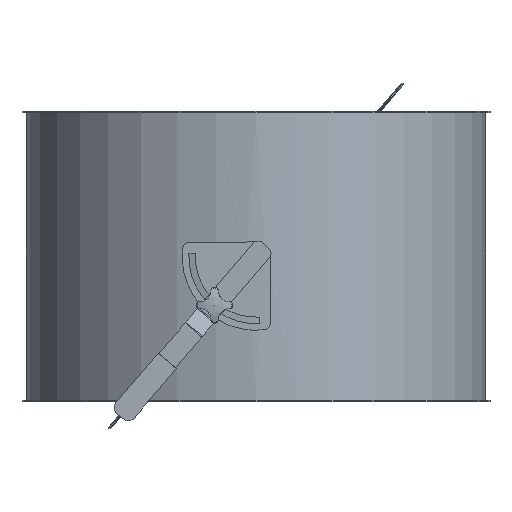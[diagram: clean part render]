
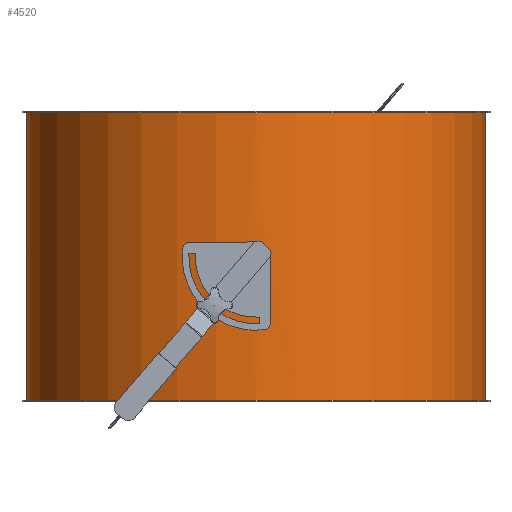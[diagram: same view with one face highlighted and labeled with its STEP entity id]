
A CAD part, left-side view. The second image highlights one B-rep face of the part: STEP entity #4520.
In plain terms, the highlighted cylindrical face has radius 316 mm (diameter 632 mm), a full revolution.
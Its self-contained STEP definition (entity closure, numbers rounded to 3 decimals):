
#4406=CARTESIAN_POINT('',(315.415,19.226,200.0));
#4407=VERTEX_POINT('',#4406);
#4417=CARTESIAN_POINT('',(315.414,19.225,200.));
#4418=CARTESIAN_POINT('',(315.414,19.225,200.002));
#4419=CARTESIAN_POINT('',(315.414,19.225,200.005));
#4420=CARTESIAN_POINT('',(315.414,19.225,200.007));
#4421=CARTESIAN_POINT('',(315.415,19.224,202.909));
#4422=CARTESIAN_POINT('',(315.477,18.256,207.248));
#4423=CARTESIAN_POINT('',(315.639,15.176,212.233));
#4424=CARTESIAN_POINT('',(315.819,11.089,216.395));
#4425=CARTESIAN_POINT('',(316.009,4.463,219.651));
#4426=CARTESIAN_POINT('',(316.009,-4.405,219.661));
#4427=CARTESIAN_POINT('',(315.784,-12.372,215.782));
#4428=CARTESIAN_POINT('',(315.466,-18.524,207.992));
#4429=CARTESIAN_POINT('',(315.382,-19.737,199.962));
#4430=CARTESIAN_POINT('',(315.455,-18.55,194.717));
#4431=CARTESIAN_POINT('',(315.492,-17.917,192.877));
#4432=CARTESIAN_POINT('',(315.556,-16.777,190.218));
#4433=CARTESIAN_POINT('',(315.656,-14.848,187.347));
#4434=CARTESIAN_POINT('',(315.773,-12.049,184.713));
#4435=CARTESIAN_POINT('',(315.883,-8.856,182.499));
#4436=CARTESIAN_POINT('',(316.009,-3.462,180.346));
#4437=CARTESIAN_POINT('',(316.009,4.415,180.338));
#4438=CARTESIAN_POINT('',(315.782,12.389,184.228));
#4439=CARTESIAN_POINT('',(315.546,16.993,190.088));
#4440=CARTESIAN_POINT('',(315.435,18.897,195.615));
#4441=CARTESIAN_POINT('',(315.415,19.225,198.551));
#4442=CARTESIAN_POINT('',(315.414,19.225,200.));
#4443=B_SPLINE_CURVE_WITH_KNOTS('',3,(#4417,#4418,#4419,#4420,#4421,#4422,#4423,#4424,#4425,#4426,#4427,#4428,#4429,#4430,#4431,#4432,#4433,#4434,#4435,#4436,#4437,#4438,#4439,#4440,#4441,#4442),.UNSPECIFIED.,.T.,.U.,(4,3,1,1,1,1,1,1,1,1,1,1,1,1,1,1,1,1,1,1,1,4),(-9.042,-9.042,-8.396,-8.073,-7.75,-7.104,-6.459,-5.813,-5.167,-4.306,-4.09,-3.983,-3.875,-3.445,-3.229,-3.014,-2.583,-1.938,-1.292,-0.646,-0.323,-0.001),.UNSPECIFIED.);
#4444=EDGE_CURVE('',#4407,#4407,#4443,.T.);
#4449=CARTESIAN_POINT('',(0.0,0.0,0.0));
#4450=DIRECTION('',(0.0,0.0,1.0));
#4451=DIRECTION('',(-1.0,0.0,0.0));
#4452=AXIS2_PLACEMENT_3D('',#4449,#4450,#4451);
#4453=CYLINDRICAL_SURFACE('',#4452,316.0);
#4454=CARTESIAN_POINT('',(316.0,0.,398.0));
#4455=VERTEX_POINT('',#4454);
#4456=CARTESIAN_POINT('',(0.0,0.0,398.0));
#4457=DIRECTION('',(0.0,0.0,-1.0));
#4458=DIRECTION('',(-1.0,0.0,0.0));
#4459=AXIS2_PLACEMENT_3D('',#4456,#4457,#4458);
#4460=CIRCLE('',#4459,316.0);
#4461=EDGE_CURVE('',#4455,#4455,#4460,.T.);
#4462=ORIENTED_EDGE('',*,*,#4461,.T.);
#4463=EDGE_LOOP('',(#4462));
#4464=FACE_OUTER_BOUND('',#4463,.T.);
#4465=CARTESIAN_POINT('',(-316.0,0.,2.0));
#4466=VERTEX_POINT('',#4465);
#4467=CARTESIAN_POINT('',(0.0,0.0,2.0));
#4468=DIRECTION('',(0.0,0.0,1.0));
#4469=DIRECTION('',(-1.0,0.0,0.0));
#4470=AXIS2_PLACEMENT_3D('',#4467,#4468,#4469);
#4471=CIRCLE('',#4470,316.0);
#4472=EDGE_CURVE('',#4466,#4466,#4471,.T.);
#4473=ORIENTED_EDGE('',*,*,#4472,.T.);
#4474=EDGE_LOOP('',(#4473));
#4475=FACE_BOUND('',#4474,.T.);
#4476=CARTESIAN_POINT('',(-315.644,15.,200.0));
#4477=VERTEX_POINT('',#4476);
#4478=CARTESIAN_POINT('',(-315.644,15.,200.0));
#4479=CARTESIAN_POINT('',(-315.644,15.,201.884));
#4480=CARTESIAN_POINT('',(-315.662,14.623,203.893));
#4481=CARTESIAN_POINT('',(-315.73,13.093,207.588));
#4482=CARTESIAN_POINT('',(-315.777,11.938,209.275));
#4483=CARTESIAN_POINT('',(-315.867,9.275,211.938));
#4484=CARTESIAN_POINT('',(-315.914,7.588,213.093));
#4485=CARTESIAN_POINT('',(-315.981,3.893,214.623));
#4486=CARTESIAN_POINT('',(-316.0,1.884,215.0));
#4487=CARTESIAN_POINT('',(-316.0,-1.884,215.0));
#4488=CARTESIAN_POINT('',(-315.981,-3.893,214.623));
#4489=CARTESIAN_POINT('',(-315.914,-7.588,213.093));
#4490=CARTESIAN_POINT('',(-315.867,-9.275,211.938));
#4491=CARTESIAN_POINT('',(-315.777,-11.938,209.275));
#4492=CARTESIAN_POINT('',(-315.73,-13.093,207.588));
#4493=CARTESIAN_POINT('',(-315.662,-14.623,203.893));
#4494=CARTESIAN_POINT('',(-315.644,-15.0,201.884));
#4495=CARTESIAN_POINT('',(-315.644,-15.0,198.116));
#4496=CARTESIAN_POINT('',(-315.662,-14.623,196.107));
#4497=CARTESIAN_POINT('',(-315.73,-13.093,192.412));
#4498=CARTESIAN_POINT('',(-315.777,-11.938,190.725));
#4499=CARTESIAN_POINT('',(-315.867,-9.275,188.062));
#4500=CARTESIAN_POINT('',(-315.914,-7.588,186.907));
#4501=CARTESIAN_POINT('',(-315.981,-3.893,185.377));
#4502=CARTESIAN_POINT('',(-316.0,-1.884,185.0));
#4503=CARTESIAN_POINT('',(-316.0,1.884,185.0));
#4504=CARTESIAN_POINT('',(-315.981,3.893,185.377));
#4505=CARTESIAN_POINT('',(-315.914,7.588,186.907));
#4506=CARTESIAN_POINT('',(-315.867,9.275,188.062));
#4507=CARTESIAN_POINT('',(-315.777,11.938,190.725));
#4508=CARTESIAN_POINT('',(-315.73,13.093,192.412));
#4509=CARTESIAN_POINT('',(-315.662,14.623,196.107));
#4510=CARTESIAN_POINT('',(-315.644,15.0,198.116));
#4511=CARTESIAN_POINT('',(-315.644,15.0,200.0));
#4512=B_SPLINE_CURVE_WITH_KNOTS('',3,(#4478,#4479,#4480,#4481,#4482,#4483,#4484,#4485,#4486,#4487,#4488,#4489,#4490,#4491,#4492,#4493,#4494,#4495,#4496,#4497,#4498,#4499,#4500,#4501,#4502,#4503,#4504,#4505,#4506,#4507,#4508,#4509,#4510,#4511),.UNSPECIFIED.,.T.,.U.,(4,2,2,2,2,2,2,2,2,2,2,2,2,2,2,2,4),(0.0,0.565,1.13,1.695,2.26,2.826,3.391,3.956,4.521,5.086,5.651,6.216,6.781,7.347,7.912,8.477,9.042),.UNSPECIFIED.);
#4513=EDGE_CURVE('',#4477,#4477,#4512,.T.);
#4514=ORIENTED_EDGE('',*,*,#4513,.T.);
#4515=EDGE_LOOP('',(#4514));
#4516=FACE_BOUND('',#4515,.T.);
#4517=ORIENTED_EDGE('',*,*,#4444,.F.);
#4518=EDGE_LOOP('',(#4517));
#4519=FACE_BOUND('',#4518,.T.);
#4520=ADVANCED_FACE('',(#4464,#4475,#4516,#4519),#4453,.T.);
